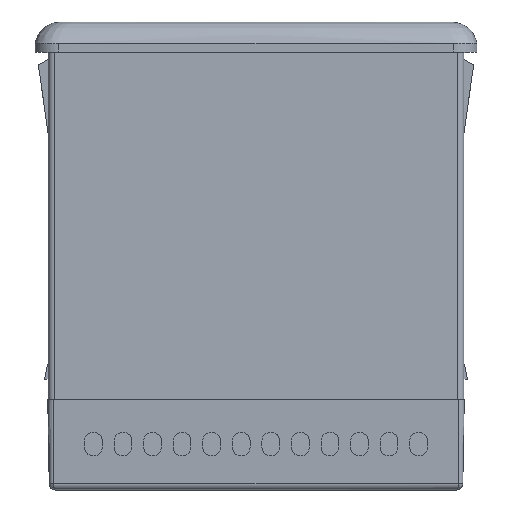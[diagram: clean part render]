
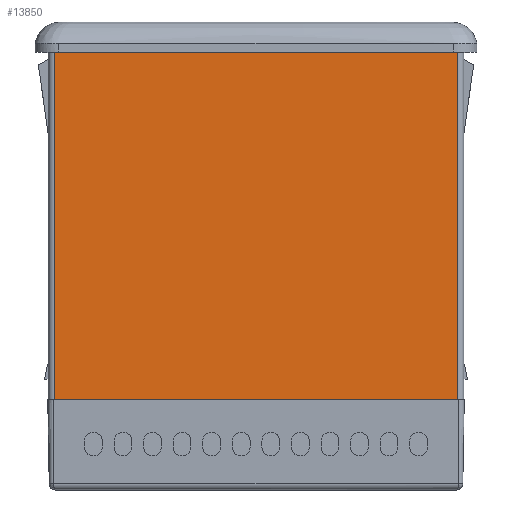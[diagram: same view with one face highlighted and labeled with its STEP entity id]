
A CAD part, top view. The second image highlights one B-rep face of the part: STEP entity #13850.
In plain terms, the highlighted planar face has unit normal (0, 0, 1).
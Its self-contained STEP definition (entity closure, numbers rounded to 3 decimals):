
#1082 = CARTESIAN_POINT ( 'NONE',  ( 34.05, 0., 14.2 ) ) ;
#1408 = VECTOR ( 'NONE', #13079, 1000. ) ;
#2594 = VERTEX_POINT ( 'NONE', #1082 ) ;
#2880 = DIRECTION ( 'NONE',  ( 0., 0., -1. ) ) ;
#2929 = DIRECTION ( 'NONE',  ( -1., 0., 0. ) ) ;
#3003 = FACE_OUTER_BOUND ( 'NONE', #4922, .T. ) ;
#3017 = CARTESIAN_POINT ( 'NONE',  ( 35.05, -58.65, 14.2 ) ) ;
#3067 = CARTESIAN_POINT ( 'NONE',  ( 34.05, -58.65, 14.2 ) ) ;
#3757 = ORIENTED_EDGE ( 'NONE', *, *, #8356, .T. ) ;
#3787 = VERTEX_POINT ( 'NONE', #8159 ) ;
#3856 = LINE ( 'NONE', #3017, #9508 ) ;
#4428 = EDGE_CURVE ( 'NONE', #8154, #3787, #3856, .T. ) ;
#4602 = CARTESIAN_POINT ( 'NONE',  ( -34.05, -58.65, 14.2 ) ) ;
#4922 = EDGE_LOOP ( 'NONE', ( #13644, #3757, #6521, #5055 ) ) ;
#5055 = ORIENTED_EDGE ( 'NONE', *, *, #15333, .T. ) ;
#5862 = DIRECTION ( 'NONE',  ( 0., -1., 0. ) ) ;
#6521 = ORIENTED_EDGE ( 'NONE', *, *, #4428, .F. ) ;
#6550 = DIRECTION ( 'NONE',  ( -1., 0., 0. ) ) ;
#8154 = VERTEX_POINT ( 'NONE', #10442 ) ;
#8159 = CARTESIAN_POINT ( 'NONE',  ( -34.05, -58.65, 14.2 ) ) ;
#8356 = EDGE_CURVE ( 'NONE', #14179, #3787, #12664, .T. ) ;
#8448 = LINE ( 'NONE', #3067, #9573 ) ;
#8944 = PLANE ( 'NONE',  #14158 ) ;
#9399 = CARTESIAN_POINT ( 'NONE',  ( 35.05, 0., 14.2 ) ) ;
#9508 = VECTOR ( 'NONE', #6550, 1000. ) ;
#9573 = VECTOR ( 'NONE', #12712, 1000. ) ;
#10120 = CARTESIAN_POINT ( 'NONE',  ( 35.05, -58.65, 14.2 ) ) ;
#10136 = LINE ( 'NONE', #9399, #1408 ) ;
#10442 = CARTESIAN_POINT ( 'NONE',  ( 34.05, -58.65, 14.2 ) ) ;
#12458 = VECTOR ( 'NONE', #5862, 1000. ) ;
#12664 = LINE ( 'NONE', #4602, #12458 ) ;
#12712 = DIRECTION ( 'NONE',  ( 0., 1., 0. ) ) ;
#13079 = DIRECTION ( 'NONE',  ( -1., 0., 0. ) ) ;
#13644 = ORIENTED_EDGE ( 'NONE', *, *, #15568, .T. ) ;
#13850 = ADVANCED_FACE ( 'NONE', ( #3003 ), #8944, .F. ) ;
#14158 = AXIS2_PLACEMENT_3D ( 'NONE', #10120, #2880, #2929 ) ;
#14179 = VERTEX_POINT ( 'NONE', #14525 ) ;
#14525 = CARTESIAN_POINT ( 'NONE',  ( -34.05, 0., 14.2 ) ) ;
#15333 = EDGE_CURVE ( 'NONE', #8154, #2594, #8448, .T. ) ;
#15568 = EDGE_CURVE ( 'NONE', #2594, #14179, #10136, .T. ) ;
